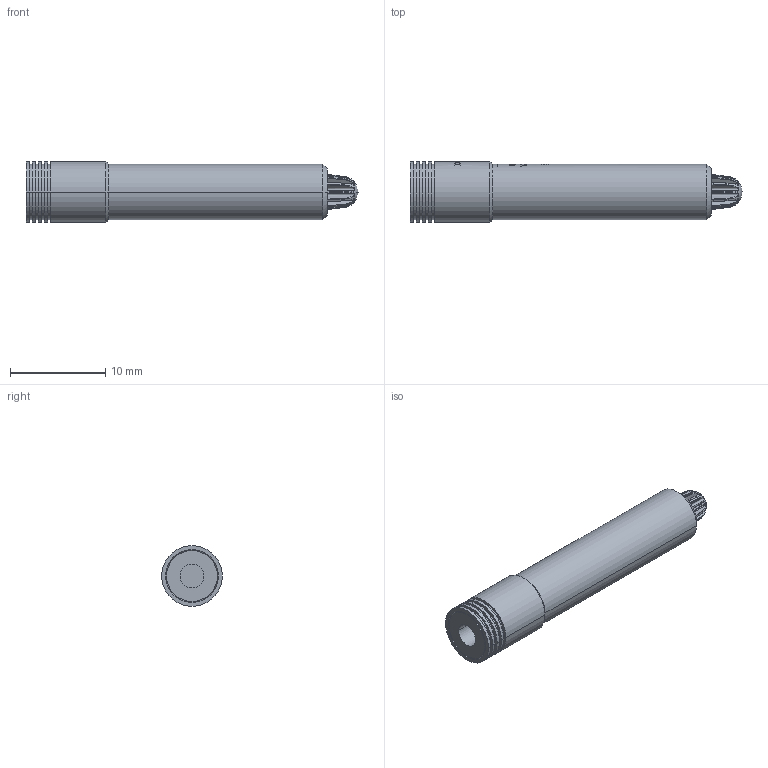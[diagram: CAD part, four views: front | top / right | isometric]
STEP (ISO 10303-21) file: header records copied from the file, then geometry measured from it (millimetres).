
FILE_DESCRIPTION (( 'STEP AP214' ), '1' );
FILE_NAME ('VXCA2500---.STEP', '2021-04-01T15:04:16', ( '' ), ( '' ), 'SwSTEP 2.0', 'SolidWorks 2018', '' );
FILE_SCHEMA (( 'AUTOMOTIVE_DESIGN' ));
Length unit declared in the file: inch
Products named in the file (1): VXCA2500---
Bounding box: 34.8 x 6.35 x 6.35 mm (x, y, z)
Volume: 870.7 mm3; surface area: 794.9 mm2
Topology: 1 solids, 1 shells, 394 faces, 1006 edges, 648 vertices
Faces by surface type: bspline 165, plane 117, cylinder 67, torus 24, cone 19, sphere 2
Entity records: 20290 total; most frequent: CARTESIAN_POINT 7639, ORIENTED_EDGE 2012, DIRECTION 1240, EDGE_CURVE 1006, VERTEX_POINT 648, AXIS2_PLACEMENT_3D 547, B_SPLINE_CURVE_WITH_KNOTS 543, EDGE_LOOP 428
